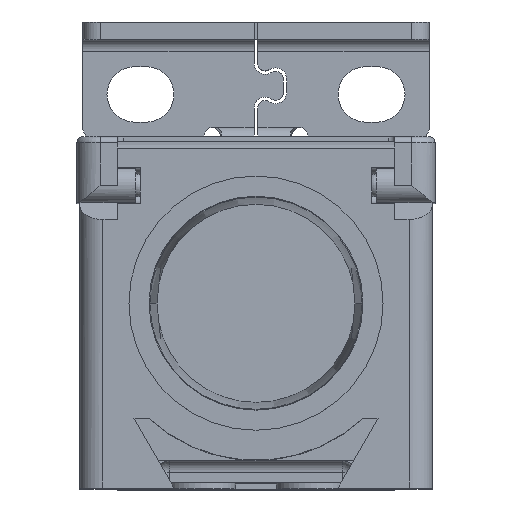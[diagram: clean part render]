
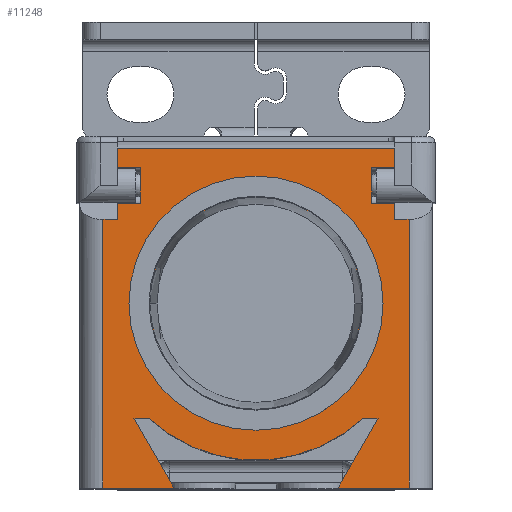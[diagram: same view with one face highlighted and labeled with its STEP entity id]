
A CAD part, top view. The second image highlights one B-rep face of the part: STEP entity #11248.
In plain terms, the highlighted planar face has unit normal (0, 0, 1).
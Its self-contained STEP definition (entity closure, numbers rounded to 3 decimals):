
#393=DIRECTION('',(1.,0.,0.));
#394=VECTOR('',#393,6.15);
#395=CARTESIAN_POINT('',(-13.25,-10.,62.));
#396=LINE('',#395,#394);
#400=DIRECTION('',(1.,0.,0.));
#401=VECTOR('',#400,6.15);
#402=CARTESIAN_POINT('',(7.1,-10.,62.));
#403=LINE('',#402,#401);
#3173=CARTESIAN_POINT('',(-13.25,13.256,62.));
#3178=DIRECTION('',(0.,-1.,0.));
#3179=VECTOR('',#3178,23.256);
#3180=CARTESIAN_POINT('',(-13.25,13.256,62.));
#3181=LINE('',#3180,#3179);
#3193=CARTESIAN_POINT('',(0.,6.,62.));
#3194=DIRECTION('',(0.,0.,1.));
#3195=DIRECTION('',(1.,0.,0.));
#3196=AXIS2_PLACEMENT_3D('',#3193,#3194,#3195);
#3201=CARTESIAN_POINT('',(0.,6.,62.));
#3202=DIRECTION('',(0.,0.,1.));
#3203=DIRECTION('',(-1.,0.,0.));
#3204=AXIS2_PLACEMENT_3D('',#3201,#3202,#3203);
#3209=DIRECTION('',(-1.,0.,0.));
#3210=VECTOR('',#3209,1.347);
#3211=CARTESIAN_POINT('',(-9.217,-4.,62.));
#3212=LINE('',#3211,#3210);
#3216=DIRECTION('',(0.5,-0.866,0.));
#3217=VECTOR('',#3216,6.928);
#3218=CARTESIAN_POINT('',(-10.564,-4.,62.));
#3219=LINE('',#3218,#3217);
#3223=DIRECTION('',(1.,0.,0.));
#3224=VECTOR('',#3223,1.25);
#3225=CARTESIAN_POINT('',(-13.25,13.256,62.));
#3226=LINE('',#3225,#3224);
#3230=DIRECTION('',(0.,-1.,0.));
#3231=VECTOR('',#3230,1.394);
#3232=CARTESIAN_POINT('',(-12.,14.65,62.));
#3233=LINE('',#3232,#3231);
#3237=DIRECTION('',(1.,0.,0.));
#3238=VECTOR('',#3237,2.);
#3239=CARTESIAN_POINT('',(-12.,14.65,62.));
#3240=LINE('',#3239,#3238);
#3244=DIRECTION('',(0.,1.,0.));
#3245=VECTOR('',#3244,3.1);
#3246=CARTESIAN_POINT('',(-10.,14.65,62.));
#3247=LINE('',#3246,#3245);
#3251=DIRECTION('',(-1.,0.,0.));
#3252=VECTOR('',#3251,2.);
#3253=CARTESIAN_POINT('',(-10.,17.75,62.));
#3254=LINE('',#3253,#3252);
#3258=DIRECTION('',(1.,0.,0.));
#3259=VECTOR('',#3258,24.);
#3260=CARTESIAN_POINT('',(-12.,19.431,62.));
#3261=LINE('',#3260,#3259);
#3265=DIRECTION('',(-1.,0.,0.));
#3266=VECTOR('',#3265,2.);
#3267=CARTESIAN_POINT('',(12.,17.75,62.));
#3268=LINE('',#3267,#3266);
#3272=DIRECTION('',(0.,-1.,0.));
#3273=VECTOR('',#3272,3.1);
#3274=CARTESIAN_POINT('',(10.,17.75,62.));
#3275=LINE('',#3274,#3273);
#3279=DIRECTION('',(1.,0.,0.));
#3280=VECTOR('',#3279,2.);
#3281=CARTESIAN_POINT('',(10.,14.65,62.));
#3282=LINE('',#3281,#3280);
#3286=DIRECTION('',(0.,-1.,0.));
#3287=VECTOR('',#3286,1.394);
#3288=CARTESIAN_POINT('',(12.,14.65,62.));
#3289=LINE('',#3288,#3287);
#3293=DIRECTION('',(-1.,0.,0.));
#3294=VECTOR('',#3293,1.25);
#3295=CARTESIAN_POINT('',(13.25,13.256,62.));
#3296=LINE('',#3295,#3294);
#3300=DIRECTION('',(0.5,0.866,0.));
#3301=VECTOR('',#3300,6.928);
#3302=CARTESIAN_POINT('',(7.1,-10.,62.));
#3303=LINE('',#3302,#3301);
#3307=DIRECTION('',(-1.,0.,0.));
#3308=VECTOR('',#3307,1.347);
#3309=CARTESIAN_POINT('',(10.564,-4.,62.));
#3310=LINE('',#3309,#3308);
#3314=CARTESIAN_POINT('',(0.,6.,62.));
#3315=DIRECTION('',(0.,0.,1.));
#3316=DIRECTION('',(-0.678,-0.735,0.));
#3317=AXIS2_PLACEMENT_3D('',#3314,#3315,#3316);
#6570=DIRECTION('',(0.,-1.,0.));
#6571=VECTOR('',#6570,1.681);
#6572=CARTESIAN_POINT('',(-12.,19.431,62.));
#6573=LINE('',#6572,#6571);
#6718=DIRECTION('',(0.,-1.,0.));
#6719=VECTOR('',#6718,1.681);
#6720=CARTESIAN_POINT('',(12.,19.431,62.));
#6721=LINE('',#6720,#6719);
#6828=DIRECTION('',(0.,-1.,0.));
#6829=VECTOR('',#6828,23.256);
#6830=CARTESIAN_POINT('',(13.25,13.256,62.));
#6831=LINE('',#6830,#6829);
#7661=CARTESIAN_POINT('',(-12.,19.431,62.));
#7662=CARTESIAN_POINT('',(12.,19.431,62.));
#7663=VERTEX_POINT('',#7661);
#7664=VERTEX_POINT('',#7662);
#7967=CARTESIAN_POINT('',(12.,17.75,62.));
#7968=CARTESIAN_POINT('',(10.,17.75,62.));
#7969=VERTEX_POINT('',#7967);
#7970=VERTEX_POINT('',#7968);
#7971=CARTESIAN_POINT('',(10.,14.65,62.));
#7972=VERTEX_POINT('',#7971);
#7973=CARTESIAN_POINT('',(-10.,14.65,62.));
#7974=CARTESIAN_POINT('',(-10.,17.75,62.));
#7975=VERTEX_POINT('',#7973);
#7976=VERTEX_POINT('',#7974);
#7977=CARTESIAN_POINT('',(-12.,17.75,62.));
#7978=VERTEX_POINT('',#7977);
#7989=CARTESIAN_POINT('',(12.,14.65,62.));
#7990=CARTESIAN_POINT('',(12.,13.256,62.));
#7991=VERTEX_POINT('',#7989);
#7992=VERTEX_POINT('',#7990);
#8015=CARTESIAN_POINT('',(-12.,14.65,62.));
#8016=CARTESIAN_POINT('',(-12.,13.256,62.));
#8017=VERTEX_POINT('',#8015);
#8018=VERTEX_POINT('',#8016);
#8059=CARTESIAN_POINT('',(9.19,6.,62.));
#8060=CARTESIAN_POINT('',(-9.19,6.,62.));
#8061=VERTEX_POINT('',#8059);
#8062=VERTEX_POINT('',#8060);
#8133=CARTESIAN_POINT('',(13.25,13.256,62.));
#8134=CARTESIAN_POINT('',(13.25,-10.,62.));
#8135=VERTEX_POINT('',#8133);
#8136=VERTEX_POINT('',#8134);
#8144=VERTEX_POINT('',#3173);
#8145=CARTESIAN_POINT('',(-13.25,-10.,62.));
#8146=VERTEX_POINT('',#8145);
#8163=CARTESIAN_POINT('',(-9.217,-4.,62.));
#8164=CARTESIAN_POINT('',(-10.564,-4.,62.));
#8165=VERTEX_POINT('',#8163);
#8166=VERTEX_POINT('',#8164);
#8167=CARTESIAN_POINT('',(-7.1,-10.,62.));
#8168=VERTEX_POINT('',#8167);
#8169=CARTESIAN_POINT('',(7.1,-10.,62.));
#8170=CARTESIAN_POINT('',(10.564,-4.,62.));
#8171=VERTEX_POINT('',#8169);
#8172=VERTEX_POINT('',#8170);
#8173=CARTESIAN_POINT('',(9.217,-4.,62.));
#8174=VERTEX_POINT('',#8173);
#11195=CARTESIAN_POINT('',(-15.25,-10.,62.));
#11196=DIRECTION('',(0.,0.,1.));
#11197=DIRECTION('',(1.,0.,0.));
#11198=AXIS2_PLACEMENT_3D('',#11195,#11196,#11197);
#11199=PLANE('',#11198);
#11201=ORIENTED_EDGE('',*,*,#11200,.T.);
#11203=ORIENTED_EDGE('',*,*,#11202,.T.);
#11204=ORIENTED_EDGE('',*,*,#8936,.F.);
#11205=ORIENTED_EDGE('',*,*,#11189,.F.);
#11206=ORIENTED_EDGE('',*,*,#11177,.T.);
#11208=ORIENTED_EDGE('',*,*,#11207,.F.);
#11210=ORIENTED_EDGE('',*,*,#11209,.T.);
#11212=ORIENTED_EDGE('',*,*,#11211,.T.);
#11214=ORIENTED_EDGE('',*,*,#11213,.T.);
#11216=ORIENTED_EDGE('',*,*,#11215,.F.);
#11218=ORIENTED_EDGE('',*,*,#11217,.T.);
#11220=ORIENTED_EDGE('',*,*,#11219,.T.);
#11222=ORIENTED_EDGE('',*,*,#11221,.T.);
#11224=ORIENTED_EDGE('',*,*,#11223,.T.);
#11226=ORIENTED_EDGE('',*,*,#11225,.T.);
#11228=ORIENTED_EDGE('',*,*,#11227,.T.);
#11230=ORIENTED_EDGE('',*,*,#11229,.F.);
#11232=ORIENTED_EDGE('',*,*,#11231,.T.);
#11233=ORIENTED_EDGE('',*,*,#8960,.F.);
#11235=ORIENTED_EDGE('',*,*,#11234,.T.);
#11237=ORIENTED_EDGE('',*,*,#11236,.T.);
#11239=ORIENTED_EDGE('',*,*,#11238,.F.);
#11240=EDGE_LOOP('',(#11201,#11203,#11204,#11205,#11206,#11208,#11210,#11212,
#11214,#11216,#11218,#11220,#11222,#11224,#11226,#11228,#11230,#11232,#11233,
#11235,#11237,#11239));
#11241=FACE_OUTER_BOUND('',#11240,.F.);
#11243=ORIENTED_EDGE('',*,*,#11242,.T.);
#11245=ORIENTED_EDGE('',*,*,#11244,.T.);
#11246=EDGE_LOOP('',(#11243,#11245));
#11247=FACE_BOUND('',#11246,.F.);
#11248=ADVANCED_FACE('',(#11241,#11247),#11199,.T.);
#3197=CIRCLE('',#3196,9.19);
#3205=CIRCLE('',#3204,9.19);
#3318=CIRCLE('',#3317,13.6);
#8936=EDGE_CURVE('',#8146,#8168,#396,.T.);
#8960=EDGE_CURVE('',#8171,#8136,#403,.T.);
#11177=EDGE_CURVE('',#8144,#8018,#3226,.T.);
#11189=EDGE_CURVE('',#8144,#8146,#3181,.T.);
#11200=EDGE_CURVE('',#8165,#8166,#3212,.T.);
#11202=EDGE_CURVE('',#8166,#8168,#3219,.T.);
#11207=EDGE_CURVE('',#8017,#8018,#3233,.T.);
#11209=EDGE_CURVE('',#8017,#7975,#3240,.T.);
#11211=EDGE_CURVE('',#7975,#7976,#3247,.T.);
#11213=EDGE_CURVE('',#7976,#7978,#3254,.T.);
#11215=EDGE_CURVE('',#7663,#7978,#6573,.T.);
#11217=EDGE_CURVE('',#7663,#7664,#3261,.T.);
#11219=EDGE_CURVE('',#7664,#7969,#6721,.T.);
#11221=EDGE_CURVE('',#7969,#7970,#3268,.T.);
#11223=EDGE_CURVE('',#7970,#7972,#3275,.T.);
#11225=EDGE_CURVE('',#7972,#7991,#3282,.T.);
#11227=EDGE_CURVE('',#7991,#7992,#3289,.T.);
#11229=EDGE_CURVE('',#8135,#7992,#3296,.T.);
#11231=EDGE_CURVE('',#8135,#8136,#6831,.T.);
#11234=EDGE_CURVE('',#8171,#8172,#3303,.T.);
#11236=EDGE_CURVE('',#8172,#8174,#3310,.T.);
#11238=EDGE_CURVE('',#8165,#8174,#3318,.T.);
#11242=EDGE_CURVE('',#8061,#8062,#3197,.T.);
#11244=EDGE_CURVE('',#8062,#8061,#3205,.T.);
